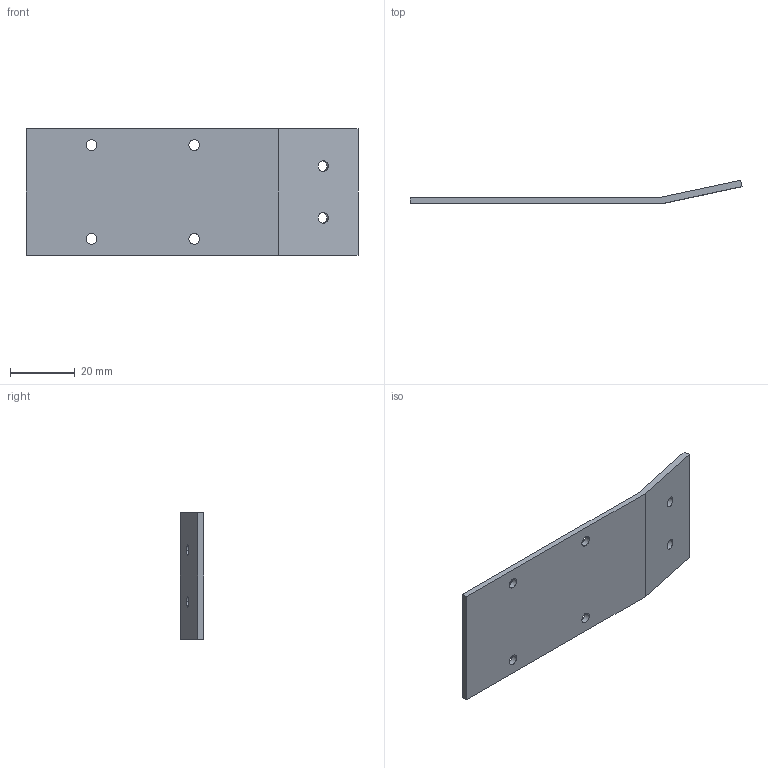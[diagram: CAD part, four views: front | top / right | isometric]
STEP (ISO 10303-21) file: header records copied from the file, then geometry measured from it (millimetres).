
FILE_DESCRIPTION (( 'STEP AP214' ), '1' );
FILE_NAME ('絮殤裔.STEP', '2024-11-14T11:31:23', ( '' ), ( '' ), 'SwSTEP 2.0', 'SolidWorks 2021', '' );
FILE_SCHEMA (( 'AUTOMOTIVE_DESIGN' ));
Length unit declared in the file: millimetre
Products named in the file (1): 絮殤裔
Bounding box: 102.55 x 7.19 x 39 mm (x, y, z)
Volume: 7270.5 mm3; surface area: 8564 mm2
Topology: 1 solids, 1 shells, 20 faces, 54 edges, 36 vertices
Faces by surface type: cylinder 12, plane 8
Entity records: 700 total; most frequent: DIRECTION 120, CARTESIAN_POINT 111, ORIENTED_EDGE 108, EDGE_CURVE 54, AXIS2_PLACEMENT_3D 45, VERTEX_POINT 36, EDGE_LOOP 32, LINE 30
